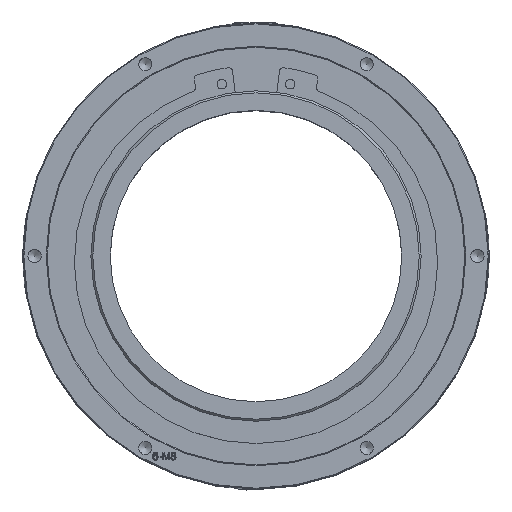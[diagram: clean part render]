
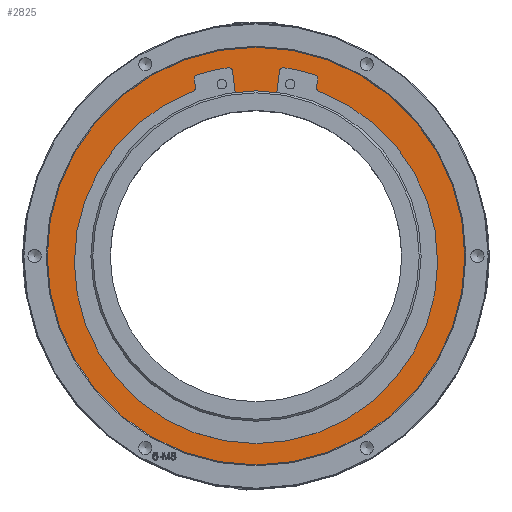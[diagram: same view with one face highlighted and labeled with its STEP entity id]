
A CAD part, top view. The second image highlights one B-rep face of the part: STEP entity #2825.
In plain terms, the highlighted planar face has unit normal (0, 0, 1).
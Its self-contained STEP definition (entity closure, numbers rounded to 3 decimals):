
#226=FACE_BOUND('',#8463,.T.);
#227=FACE_BOUND('',#8464,.T.);
#617=CIRCLE('',#30510,1.5);
#618=CIRCLE('',#30511,83.);
#619=CIRCLE('',#30512,1.5);
#620=CIRCLE('',#30513,2.);
#621=CIRCLE('',#30514,99.);
#622=CIRCLE('',#30515,2.);
#623=CIRCLE('',#30516,2.);
#624=CIRCLE('',#30517,93.5);
#625=CIRCLE('',#30518,2.);
#626=CIRCLE('',#30519,2.);
#627=CIRCLE('',#30520,99.);
#628=CIRCLE('',#30521,2.);
#629=CIRCLE('',#30522,107.5);
#1207=PLANE('',#30523);
#1697=LINE('',#53405,#5435);
#1698=LINE('',#53414,#5436);
#1699=LINE('',#53422,#5437);
#1700=LINE('',#53430,#5438);
#2825=ADVANCED_FACE('',(#226,#227),#1207,.T.);
#5435=VECTOR('',#32884,1.);
#5436=VECTOR('',#32891,1.);
#5437=VECTOR('',#32898,1.);
#5438=VECTOR('',#32905,1.);
#8463=EDGE_LOOP('',(#13159,#13160,#13161,#13162,#13163,#13164,#13165,#13166,
#13167,#13168,#13169,#13170,#13171,#13172,#13173,#13174));
#8464=EDGE_LOOP('',(#13175));
#13159=ORIENTED_EDGE('',*,*,#23933,.F.);
#13160=ORIENTED_EDGE('',*,*,#23934,.T.);
#13161=ORIENTED_EDGE('',*,*,#23935,.F.);
#13162=ORIENTED_EDGE('',*,*,#23936,.T.);
#13163=ORIENTED_EDGE('',*,*,#23937,.T.);
#13164=ORIENTED_EDGE('',*,*,#23938,.T.);
#13165=ORIENTED_EDGE('',*,*,#23939,.F.);
#13166=ORIENTED_EDGE('',*,*,#23940,.T.);
#13167=ORIENTED_EDGE('',*,*,#23941,.F.);
#13168=ORIENTED_EDGE('',*,*,#23942,.T.);
#13169=ORIENTED_EDGE('',*,*,#23943,.F.);
#13170=ORIENTED_EDGE('',*,*,#23944,.T.);
#13171=ORIENTED_EDGE('',*,*,#23945,.T.);
#13172=ORIENTED_EDGE('',*,*,#23946,.T.);
#13173=ORIENTED_EDGE('',*,*,#23947,.F.);
#13174=ORIENTED_EDGE('',*,*,#23948,.T.);
#13175=ORIENTED_EDGE('',*,*,#23949,.T.);
#20019=VERTEX_POINT('',#53406);
#20020=VERTEX_POINT('',#53407);
#20021=VERTEX_POINT('',#53409);
#20022=VERTEX_POINT('',#53411);
#20023=VERTEX_POINT('',#53413);
#20024=VERTEX_POINT('',#53415);
#20025=VERTEX_POINT('',#53417);
#20026=VERTEX_POINT('',#53419);
#20027=VERTEX_POINT('',#53421);
#20028=VERTEX_POINT('',#53423);
#20029=VERTEX_POINT('',#53425);
#20030=VERTEX_POINT('',#53427);
#20031=VERTEX_POINT('',#53429);
#20032=VERTEX_POINT('',#53431);
#20033=VERTEX_POINT('',#53433);
#20034=VERTEX_POINT('',#53435);
#20035=VERTEX_POINT('',#53438);
#23933=EDGE_CURVE('',#20019,#20020,#1697,.T.);
#23934=EDGE_CURVE('',#20019,#20021,#617,.T.);
#23935=EDGE_CURVE('',#20022,#20021,#618,.T.);
#23936=EDGE_CURVE('',#20022,#20023,#619,.T.);
#23937=EDGE_CURVE('',#20023,#20024,#1698,.T.);
#23938=EDGE_CURVE('',#20024,#20025,#620,.T.);
#23939=EDGE_CURVE('',#20026,#20025,#621,.T.);
#23940=EDGE_CURVE('',#20026,#20027,#622,.T.);
#23941=EDGE_CURVE('',#20028,#20027,#1699,.T.);
#23942=EDGE_CURVE('',#20028,#20029,#623,.T.);
#23943=EDGE_CURVE('',#20030,#20029,#624,.T.);
#23944=EDGE_CURVE('',#20030,#20031,#625,.T.);
#23945=EDGE_CURVE('',#20031,#20032,#1700,.T.);
#23946=EDGE_CURVE('',#20032,#20033,#626,.T.);
#23947=EDGE_CURVE('',#20034,#20033,#627,.T.);
#23948=EDGE_CURVE('',#20034,#20020,#628,.T.);
#23949=EDGE_CURVE('',#20035,#20035,#629,.T.);
#30510=AXIS2_PLACEMENT_3D('',#53408,#32885,#32886);
#30511=AXIS2_PLACEMENT_3D('',#53410,#32887,#32888);
#30512=AXIS2_PLACEMENT_3D('',#53412,#32889,#32890);
#30513=AXIS2_PLACEMENT_3D('',#53416,#32892,#32893);
#30514=AXIS2_PLACEMENT_3D('',#53418,#32894,#32895);
#30515=AXIS2_PLACEMENT_3D('',#53420,#32896,#32897);
#30516=AXIS2_PLACEMENT_3D('',#53424,#32899,#32900);
#30517=AXIS2_PLACEMENT_3D('',#53426,#32901,#32902);
#30518=AXIS2_PLACEMENT_3D('',#53428,#32903,#32904);
#30519=AXIS2_PLACEMENT_3D('',#53432,#32906,#32907);
#30520=AXIS2_PLACEMENT_3D('',#53434,#32908,#32909);
#30521=AXIS2_PLACEMENT_3D('',#53436,#32910,#32911);
#30522=AXIS2_PLACEMENT_3D('',#53437,#32912,#32913);
#30523=AXIS2_PLACEMENT_3D('',#53439,#32914,#32915);
#32884=DIRECTION('',(-0.122,0.993,0.));
#32885=DIRECTION('',(0.,0.,-1.));
#32886=DIRECTION('',(-1.,0.,0.));
#32887=DIRECTION('',(0.,0.,1.));
#32888=DIRECTION('',(1.,0.,0.));
#32889=DIRECTION('',(0.,0.,-1.));
#32890=DIRECTION('',(-1.,0.,0.));
#32891=DIRECTION('',(0.122,0.993,0.));
#32892=DIRECTION('',(0.,0.,-1.));
#32893=DIRECTION('',(-1.,0.,0.));
#32894=DIRECTION('',(0.,0.,1.));
#32895=DIRECTION('',(-1.,0.,0.));
#32896=DIRECTION('',(0.,0.,-1.));
#32897=DIRECTION('',(-1.,0.,0.));
#32898=DIRECTION('',(0.122,0.993,0.));
#32899=DIRECTION('',(0.,0.,1.));
#32900=DIRECTION('',(-1.,0.,0.));
#32901=DIRECTION('',(0.,0.,1.));
#32902=DIRECTION('',(1.,0.,0.));
#32903=DIRECTION('',(0.,0.,1.));
#32904=DIRECTION('',(-1.,0.,0.));
#32905=DIRECTION('',(-0.122,0.993,0.));
#32906=DIRECTION('',(0.,0.,-1.));
#32907=DIRECTION('',(-1.,0.,0.));
#32908=DIRECTION('',(0.,0.,1.));
#32909=DIRECTION('',(-1.,0.,0.));
#32910=DIRECTION('',(0.,0.,-1.));
#32911=DIRECTION('',(-1.,0.,0.));
#32912=DIRECTION('',(0.,0.,1.));
#32913=DIRECTION('',(1.,0.,0.));
#32914=DIRECTION('',(0.,0.,1.));
#32915=DIRECTION('',(1.,0.,0.));
#53405=CARTESIAN_POINT('',(-0.244,-1.015,120.));
#53406=CARTESIAN_POINT('',(-10.658,83.805,120.));
#53407=CARTESIAN_POINT('',(-12.063,95.242,120.));
#53408=CARTESIAN_POINT('',(-12.147,83.622,120.));
#53409=CARTESIAN_POINT('',(-11.932,82.138,120.));
#53410=CARTESIAN_POINT('',(0.,0.,120.));
#53411=CARTESIAN_POINT('',(11.932,82.138,120.));
#53412=CARTESIAN_POINT('',(12.147,83.622,120.));
#53413=CARTESIAN_POINT('',(10.658,83.805,120.));
#53414=CARTESIAN_POINT('',(0.,-3.,120.));
#53415=CARTESIAN_POINT('',(12.063,95.242,120.));
#53416=CARTESIAN_POINT('',(14.048,94.998,120.));
#53417=CARTESIAN_POINT('',(14.332,96.978,120.));
#53418=CARTESIAN_POINT('',(0.244,-1.015,120.));
#53419=CARTESIAN_POINT('',(30.333,93.302,120.));
#53420=CARTESIAN_POINT('',(29.726,91.396,120.));
#53421=CARTESIAN_POINT('',(31.711,91.153,120.));
#53422=CARTESIAN_POINT('',(20.095,-3.452,120.));
#53423=CARTESIAN_POINT('',(31.176,86.801,120.));
#53424=CARTESIAN_POINT('',(33.162,86.558,120.));
#53425=CARTESIAN_POINT('',(32.467,84.682,120.));
#53426=CARTESIAN_POINT('',(0.,-3.,120.));
#53427=CARTESIAN_POINT('',(-32.467,84.682,120.));
#53428=CARTESIAN_POINT('',(-33.162,86.558,120.));
#53429=CARTESIAN_POINT('',(-31.176,86.801,120.));
#53430=CARTESIAN_POINT('',(-30.85,84.14,120.));
#53431=CARTESIAN_POINT('',(-31.711,91.153,120.));
#53432=CARTESIAN_POINT('',(-29.726,91.396,120.));
#53433=CARTESIAN_POINT('',(-30.333,93.302,120.));
#53434=CARTESIAN_POINT('',(-0.244,-1.015,120.));
#53435=CARTESIAN_POINT('',(-14.332,96.978,120.));
#53436=CARTESIAN_POINT('',(-14.048,94.998,120.));
#53437=CARTESIAN_POINT('',(0.,0.,120.));
#53438=CARTESIAN_POINT('',(107.5,0.,120.));
#53439=CARTESIAN_POINT('',(0.,0.,120.));
